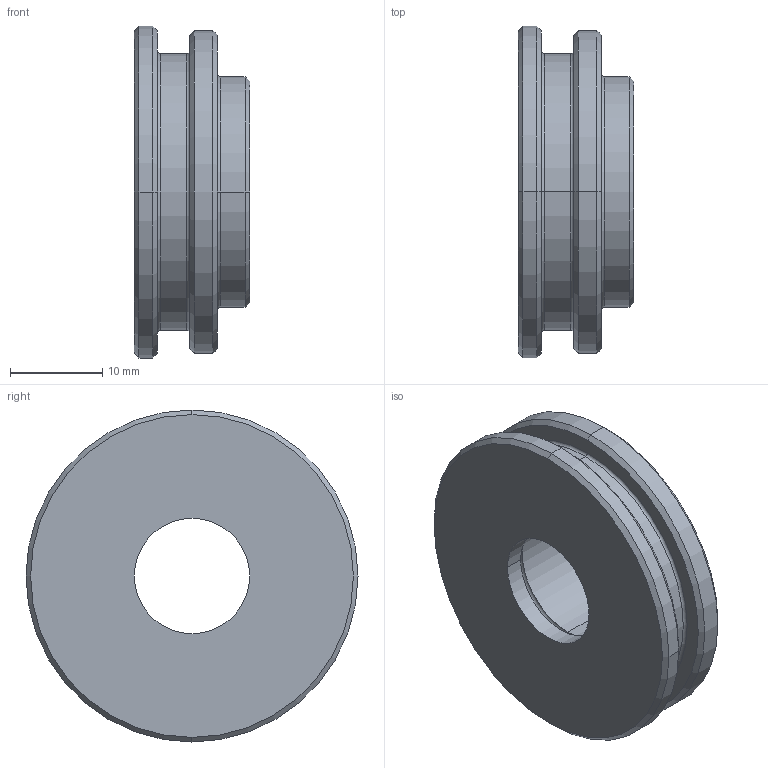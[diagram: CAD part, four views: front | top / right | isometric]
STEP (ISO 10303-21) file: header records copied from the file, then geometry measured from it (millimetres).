
FILE_DESCRIPTION(('FreeCAD Model'),'2;1');
FILE_NAME('Open CASCADE Shape Model','2026-07-02T19:47:06',(''),(''), 'Open CASCADE STEP processor 7.8','FreeCAD','Unknown');
FILE_SCHEMA(('AP242_MANAGED_MODEL_BASED_3D_ENGINEERING_MIM_LF. {1 0 10303 442 1 1 4 }'));
Length unit declared in the file: millimetre
Products named in the file (1): 75T0016
Bounding box: 12.5 x 36 x 36 mm (x, y, z)
Volume: 7678.1 mm3; surface area: 3884.7 mm2
Topology: 1 solids, 1 shells, 38 faces, 79 edges, 47 vertices
Faces by surface type: cylinder 12, cone 12, torus 8, plane 6
Entity records: 1048 total; most frequent: DIRECTION 212, CARTESIAN_POINT 165, ORIENTED_EDGE 158, AXIS2_PLACEMENT_3D 94, EDGE_CURVE 79, CIRCLE 55, VERTEX_POINT 47, FACE_BOUND 44
